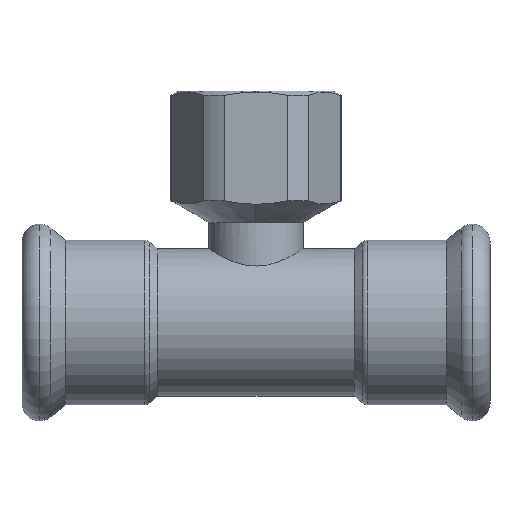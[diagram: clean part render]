
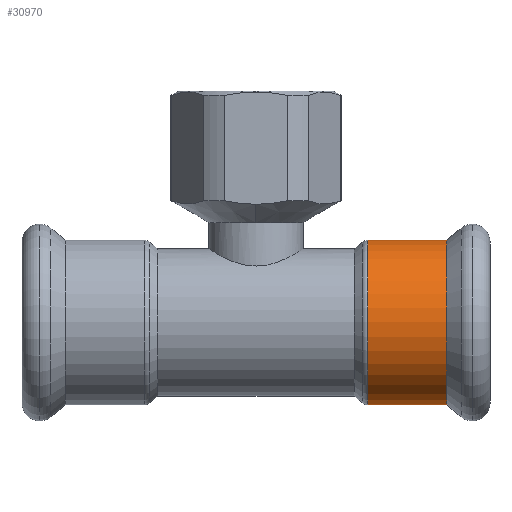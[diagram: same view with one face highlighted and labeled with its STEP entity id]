
A CAD part, top view. The second image highlights one B-rep face of the part: STEP entity #30970.
In plain terms, the highlighted cylindrical face has radius 15.65 mm (diameter 31.3 mm), a partial arc.
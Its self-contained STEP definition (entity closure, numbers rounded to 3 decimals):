
#14140=CARTESIAN_POINT('',(-388.656,1.961,0.));
#14150=VERTEX_POINT('',#14140);
#14240=CARTESIAN_POINT('',(-419.956,1.961,0.));
#14250=VERTEX_POINT('',#14240);
#14280=CARTESIAN_POINT('',(-404.306,1.961,0.));
#14290=DIRECTION('',(0.,1.,0.));
#14300=DIRECTION('',(1.,0.,0.));
#14310=AXIS2_PLACEMENT_3D('',#14280,#14290,#14300);
#14320=CIRCLE('',#14310,15.65);
#26320=CARTESIAN_POINT('',(-419.956,-13.091,0.));
#26330=VERTEX_POINT('',#26320);
#26510=CARTESIAN_POINT('',(-388.656,-13.091,
0.));
#26520=VERTEX_POINT('',#26510);
#26550=CARTESIAN_POINT('',(-404.306,-13.091,0.));
#26560=DIRECTION('',(0.,-1.,0.));
#26570=DIRECTION('',(1.,0.,0.));
#26580=AXIS2_PLACEMENT_3D('',#26550,#26560,#26570);
#26590=CIRCLE('',#26580,15.65);
#26650=CARTESIAN_POINT('',(-404.306,-5.286,0.));
#26660=DIRECTION('',(0.,1.,0.));
#26670=DIRECTION('',(1.,0.,0.));
#26680=AXIS2_PLACEMENT_3D('',#26650,#26660,#26670);
#26690=CYLINDRICAL_SURFACE('',#26680,15.65);
#26700=CARTESIAN_POINT('',(-419.956,-5.286,
0.));
#26710=DIRECTION('',(0.,1.,0.));
#26720=VECTOR('',#26710,1.);
#26730=LINE('',#26700,#26720);
#26740=EDGE_CURVE('',#26330,#14250,#26730,.T.);
#26770=CARTESIAN_POINT('',(-388.656,-5.286,0.));
#26780=DIRECTION('',(0.,1.,0.));
#26790=VECTOR('',#26780,1.);
#26800=LINE('',#26770,#26790);
#26810=EDGE_CURVE('',#26520,#14150,#26800,.T.);
#30890=EDGE_CURVE('',#14250,#14150,#14320,.T.);
#30900=ORIENTED_EDGE('',*,*,#30890,.F.);
#30910=ORIENTED_EDGE('',*,*,#26810,.T.);
#30920=EDGE_CURVE('',#26520,#26330,#26590,.T.);
#30930=ORIENTED_EDGE('',*,*,#30920,.F.);
#30940=ORIENTED_EDGE('',*,*,#26740,.F.);
#30950=EDGE_LOOP('',(#30940,#30930,#30910,#30900));
#30960=FACE_OUTER_BOUND('',#30950,.T.);
#30970=ADVANCED_FACE('',(#30960),#26690,.T.);
